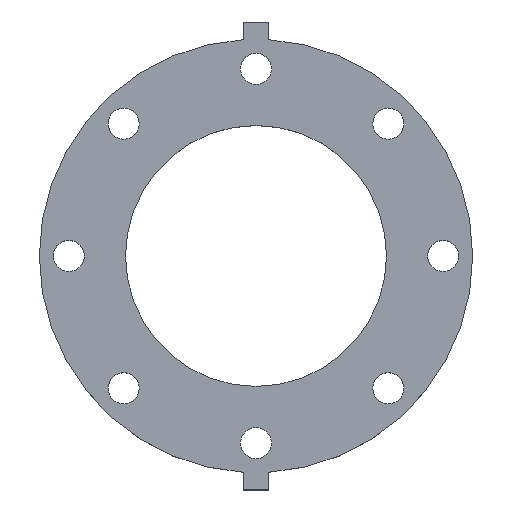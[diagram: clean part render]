
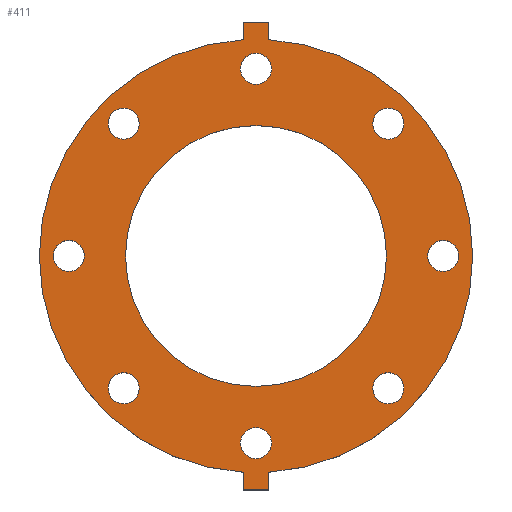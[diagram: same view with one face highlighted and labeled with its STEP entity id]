
A CAD part, top view. The second image highlights one B-rep face of the part: STEP entity #411.
In plain terms, the highlighted planar face has unit normal (0, 0, 1).
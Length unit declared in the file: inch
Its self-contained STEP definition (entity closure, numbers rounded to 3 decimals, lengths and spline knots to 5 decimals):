
#14=FACE_BOUND('',#77,.T.);
#15=FACE_BOUND('',#78,.T.);
#16=FACE_BOUND('',#79,.T.);
#17=FACE_BOUND('',#80,.T.);
#18=FACE_BOUND('',#81,.T.);
#19=FACE_BOUND('',#82,.T.);
#20=FACE_BOUND('',#83,.T.);
#21=FACE_BOUND('',#84,.T.);
#22=FACE_BOUND('',#85,.T.);
#38=PLANE('',#472);
#57=FACE_OUTER_BOUND('',#76,.T.);
#76=EDGE_LOOP('',(#329,#330,#331,#332,#333,#334,#335,#336));
#77=EDGE_LOOP('',(#337));
#78=EDGE_LOOP('',(#338));
#79=EDGE_LOOP('',(#339));
#80=EDGE_LOOP('',(#340));
#81=EDGE_LOOP('',(#341));
#82=EDGE_LOOP('',(#342));
#83=EDGE_LOOP('',(#343));
#84=EDGE_LOOP('',(#344));
#85=EDGE_LOOP('',(#345));
#111=LINE('',#665,#140);
#113=LINE('',#670,#142);
#116=LINE('',#674,#145);
#119=LINE('',#682,#148);
#122=LINE('',#686,#151);
#124=LINE('',#689,#153);
#140=VECTOR('',#559,0.3937);
#142=VECTOR('',#563,0.3937);
#145=VECTOR('',#568,0.3937);
#148=VECTOR('',#573,0.3937);
#151=VECTOR('',#578,0.3937);
#153=VECTOR('',#582,0.3937);
#154=CIRCLE('',#434,0.395);
#156=CIRCLE('',#437,0.395);
#158=CIRCLE('',#440,0.395);
#160=CIRCLE('',#443,0.395);
#162=CIRCLE('',#446,0.395);
#164=CIRCLE('',#449,0.395);
#166=CIRCLE('',#452,0.395);
#168=CIRCLE('',#455,0.395);
#171=CIRCLE('',#459,3.3125);
#173=CIRCLE('',#462,5.5);
#174=CIRCLE('',#464,5.5);
#176=VERTEX_POINT('',#589);
#178=VERTEX_POINT('',#595);
#180=VERTEX_POINT('',#601);
#182=VERTEX_POINT('',#607);
#184=VERTEX_POINT('',#613);
#186=VERTEX_POINT('',#619);
#188=VERTEX_POINT('',#625);
#190=VERTEX_POINT('',#631);
#193=VERTEX_POINT('',#639);
#195=VERTEX_POINT('',#644);
#197=VERTEX_POINT('',#648);
#199=VERTEX_POINT('',#653);
#200=VERTEX_POINT('',#655);
#203=VERTEX_POINT('',#663);
#205=VERTEX_POINT('',#669);
#208=VERTEX_POINT('',#679);
#209=VERTEX_POINT('',#681);
#210=EDGE_CURVE('',#176,#176,#154,.T.);
#213=EDGE_CURVE('',#178,#178,#156,.T.);
#216=EDGE_CURVE('',#180,#180,#158,.T.);
#219=EDGE_CURVE('',#182,#182,#160,.T.);
#222=EDGE_CURVE('',#184,#184,#162,.T.);
#225=EDGE_CURVE('',#186,#186,#164,.T.);
#228=EDGE_CURVE('',#188,#188,#166,.T.);
#231=EDGE_CURVE('',#190,#190,#168,.T.);
#236=EDGE_CURVE('',#193,#193,#171,.T.);
#240=EDGE_CURVE('',#195,#197,#173,.T.);
#242=EDGE_CURVE('',#200,#199,#174,.T.);
#247=EDGE_CURVE('',#197,#203,#111,.T.);
#249=EDGE_CURVE('',#205,#200,#113,.T.);
#252=EDGE_CURVE('',#203,#205,#116,.T.);
#255=EDGE_CURVE('',#209,#208,#119,.T.);
#258=EDGE_CURVE('',#199,#209,#122,.T.);
#260=EDGE_CURVE('',#208,#195,#124,.T.);
#329=ORIENTED_EDGE('',*,*,#260,.T.);
#330=ORIENTED_EDGE('',*,*,#240,.T.);
#331=ORIENTED_EDGE('',*,*,#247,.T.);
#332=ORIENTED_EDGE('',*,*,#252,.T.);
#333=ORIENTED_EDGE('',*,*,#249,.T.);
#334=ORIENTED_EDGE('',*,*,#242,.T.);
#335=ORIENTED_EDGE('',*,*,#258,.T.);
#336=ORIENTED_EDGE('',*,*,#255,.T.);
#337=ORIENTED_EDGE('',*,*,#210,.T.);
#338=ORIENTED_EDGE('',*,*,#213,.T.);
#339=ORIENTED_EDGE('',*,*,#216,.T.);
#340=ORIENTED_EDGE('',*,*,#219,.T.);
#341=ORIENTED_EDGE('',*,*,#222,.T.);
#342=ORIENTED_EDGE('',*,*,#225,.T.);
#343=ORIENTED_EDGE('',*,*,#228,.T.);
#344=ORIENTED_EDGE('',*,*,#231,.T.);
#345=ORIENTED_EDGE('',*,*,#236,.T.);
#411=ADVANCED_FACE('',(#57,#14,#15,#16,#17,#18,#19,#20,#21,#22),#38,.T.);
#434=AXIS2_PLACEMENT_3D('',#590,#478,#479);
#437=AXIS2_PLACEMENT_3D('',#596,#485,#486);
#440=AXIS2_PLACEMENT_3D('',#602,#492,#493);
#443=AXIS2_PLACEMENT_3D('',#608,#499,#500);
#446=AXIS2_PLACEMENT_3D('',#614,#506,#507);
#449=AXIS2_PLACEMENT_3D('',#620,#513,#514);
#452=AXIS2_PLACEMENT_3D('',#626,#520,#521);
#455=AXIS2_PLACEMENT_3D('',#632,#527,#528);
#459=AXIS2_PLACEMENT_3D('',#641,#537,#538);
#462=AXIS2_PLACEMENT_3D('',#650,#545,#546);
#464=AXIS2_PLACEMENT_3D('',#656,#550,#551);
#472=AXIS2_PLACEMENT_3D('',#690,#583,#584);
#478=DIRECTION('center_axis',(0.,0.,-1.));
#479=DIRECTION('ref_axis',(-0.707,-0.707,0.));
#485=DIRECTION('center_axis',(0.,0.,-1.));
#486=DIRECTION('ref_axis',(-1.,0.,0.));
#492=DIRECTION('center_axis',(0.,0.,-1.));
#493=DIRECTION('ref_axis',(-0.707,0.707,0.));
#499=DIRECTION('center_axis',(0.,0.,-1.));
#500=DIRECTION('ref_axis',(0.,1.,0.));
#506=DIRECTION('center_axis',(0.,0.,-1.));
#507=DIRECTION('ref_axis',(0.707,0.707,0.));
#513=DIRECTION('center_axis',(0.,0.,-1.));
#514=DIRECTION('ref_axis',(1.,0.,0.));
#520=DIRECTION('center_axis',(0.,0.,-1.));
#521=DIRECTION('ref_axis',(0.707,-0.707,0.));
#527=DIRECTION('center_axis',(0.,0.,-1.));
#528=DIRECTION('ref_axis',(0.,-1.,0.));
#537=DIRECTION('center_axis',(0.,0.,-1.));
#538=DIRECTION('ref_axis',(0.,-1.,0.));
#545=DIRECTION('center_axis',(0.,0.,1.));
#546=DIRECTION('ref_axis',(0.,1.,0.));
#550=DIRECTION('center_axis',(0.,0.,1.));
#551=DIRECTION('ref_axis',(0.,1.,0.));
#559=DIRECTION('',(0.,-1.,0.));
#563=DIRECTION('',(0.,1.,0.));
#568=DIRECTION('',(1.,0.,0.));
#573=DIRECTION('',(-1.,0.,0.));
#578=DIRECTION('',(0.,1.,0.));
#582=DIRECTION('',(0.,-1.,0.));
#583=DIRECTION('center_axis',(0.,0.,1.));
#584=DIRECTION('ref_axis',(0.,1.,0.));
#589=CARTESIAN_POINT('',(-3.07945,3.63806,1.));
#590=CARTESIAN_POINT('Origin',(-3.35876,3.35876,1.));
#595=CARTESIAN_POINT('',(0.395,4.75,1.));
#596=CARTESIAN_POINT('Origin',(0.,4.75,1.));
#601=CARTESIAN_POINT('',(3.63806,3.07945,1.));
#602=CARTESIAN_POINT('Origin',(3.35876,3.35876,1.));
#607=CARTESIAN_POINT('',(4.75,-0.395,1.));
#608=CARTESIAN_POINT('Origin',(4.75,0.,1.));
#613=CARTESIAN_POINT('',(3.07945,-3.63806,1.));
#614=CARTESIAN_POINT('Origin',(3.35876,-3.35876,1.));
#619=CARTESIAN_POINT('',(-0.395,-4.75,1.));
#620=CARTESIAN_POINT('Origin',(0.,-4.75,1.));
#625=CARTESIAN_POINT('',(-3.63806,-3.07945,1.));
#626=CARTESIAN_POINT('Origin',(-3.35876,-3.35876,1.));
#631=CARTESIAN_POINT('',(-4.75,0.395,1.));
#632=CARTESIAN_POINT('Origin',(-4.75,0.,1.));
#639=CARTESIAN_POINT('',(0.,3.3125,1.));
#641=CARTESIAN_POINT('Origin',(0.,0.,1.));
#644=CARTESIAN_POINT('',(-0.32,5.49068,1.));
#648=CARTESIAN_POINT('',(-0.32,-5.49068,1.));
#650=CARTESIAN_POINT('Origin',(0.,0.,1.));
#653=CARTESIAN_POINT('',(0.32,5.49068,1.));
#655=CARTESIAN_POINT('',(0.32,-5.49068,1.));
#656=CARTESIAN_POINT('Origin',(0.,0.,1.));
#663=CARTESIAN_POINT('',(-0.32,-5.94,1.));
#665=CARTESIAN_POINT('',(-0.32,-5.49068,1.));
#669=CARTESIAN_POINT('',(0.32,-5.94,1.));
#670=CARTESIAN_POINT('',(0.32,-5.94,1.));
#674=CARTESIAN_POINT('',(-0.32,-5.94,1.));
#679=CARTESIAN_POINT('',(-0.32,5.94,1.));
#681=CARTESIAN_POINT('',(0.32,5.94,1.));
#682=CARTESIAN_POINT('',(0.32,5.94,1.));
#686=CARTESIAN_POINT('',(0.32,5.49068,1.));
#689=CARTESIAN_POINT('',(-0.32,5.94,1.));
#690=CARTESIAN_POINT('Origin',(0.,5.73459,1.));
